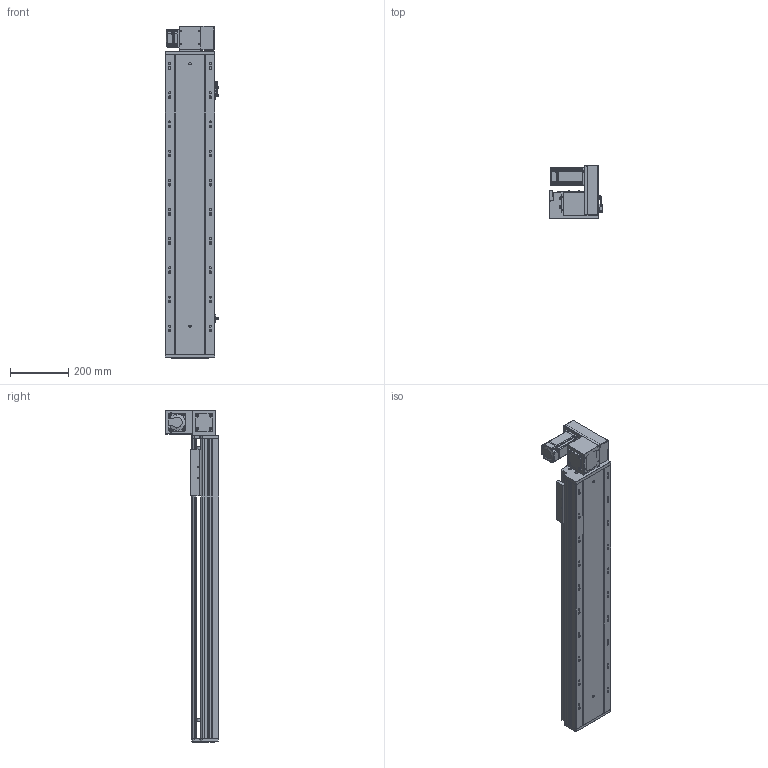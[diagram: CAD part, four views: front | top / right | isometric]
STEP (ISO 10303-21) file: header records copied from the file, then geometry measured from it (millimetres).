
FILE_DESCRIPTION (( 'STEP AP203' ), '1' );
FILE_NAME ('RY170-T-300-UR-P400W.SLDASM_750.step', '2021-03-01T09:27:25', ( '盈信电脑' ), ( '东莞市道滘镇水果街19号' ), 'SwSTEP 2.0', 'SolidWorks 2012', '' );
FILE_SCHEMA (( 'CONFIG_CONTROL_DESIGN' ));
Length unit declared in the file: millimetre
Products named in the file (18): 15; RY170-T-300-UR-P400W.SLDASM_750; RY170-T肮祭謫裔啣; 滅袉蝶18-10; RY170-T蹟翐M4; RY120-T主同步轮轴承压盖; RY170-T肮祭湍揤踡輸2; RY170-T肮祭湍揤踡輸1; RY170翋肮祭謫釱; RY170同步轮电机安装板(400W); RY170肮祭謫萇儂欶; RY170肮祭謫ヶ裔啣; RY170外置感应片(200共用）; RY170綴裔啣; 覜茼ん672; RY170-T-300肮祭謫倰第裔啣-DR_750; RY170肮祭湍臏賑輸; RY170-T-300肮祭謫倰第菁釱-DR_750
Assembly tree (22 placements, depth 2):
  RY170-T-300-UR-P400W.SLDASM_750
    RY170-T-300肮祭謫倰第菁釱-DR_750
    RY170肮祭湍臏賑輸
    RY170-T-300肮祭謫倰第裔啣-DR_750
    RY170綴裔啣
    覜茼ん672  x3
    RY170外置感应片(200共用）
    RY170肮祭謫ヶ裔啣
    RY170翋肮祭謫釱
    RY170同步轮电机安装板(400W)
    RY170肮祭謫萇儂欶
    RY170-T肮祭湍揤踡輸1  x2
    RY170-T肮祭湍揤踡輸2  x2
    RY120-T主同步轮轴承压盖
    RY170-T肮祭謫裔啣
    RY170-T蹟翐M4
    滅袉蝶18-10  x2
    15
Bounding box: 183.7 x 182 x 1138 mm (x, y, z)
Volume: 5855730.1 mm3; surface area: 1978949.1 mm2
Topology: 22 solids, 22 shells, 2796 faces, 7838 edges, 5047 vertices
Faces by surface type: cylinder 1276, plane 1266, cone 224, bspline 30
Entity records: 84776 total; most frequent: CARTESIAN_POINT 19507, ORIENTED_EDGE 13408, DIRECTION 13004, EDGE_CURVE 6704, AXIS2_PLACEMENT_3D 4574, VERTEX_POINT 4403, VECTOR 3856, LINE 3856
